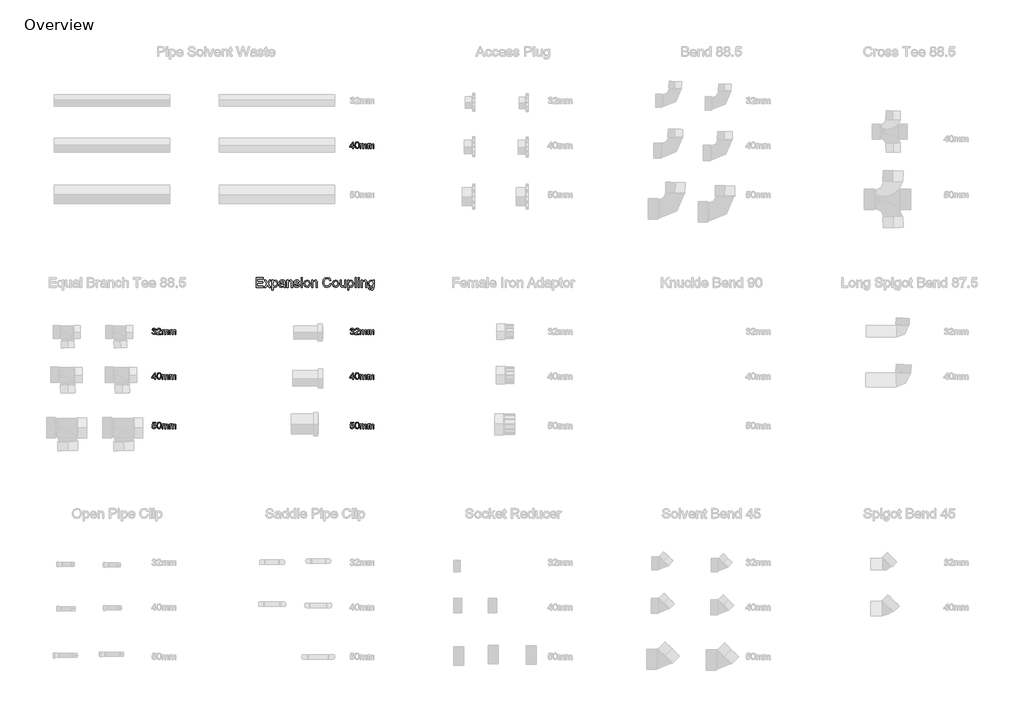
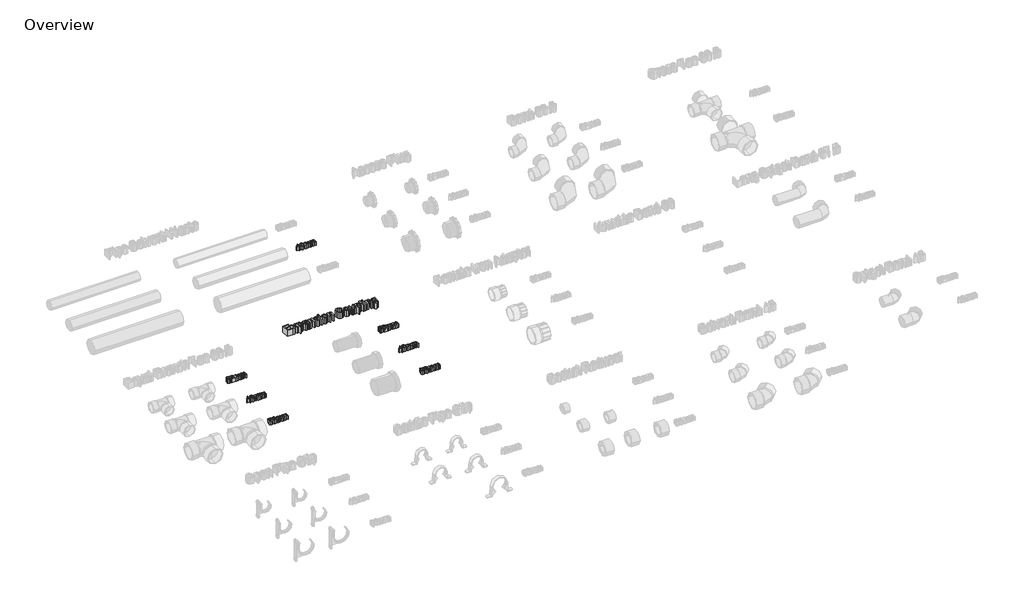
# One storey, part 5 of 10: 8 proxies.
"""IFC4 building model written with IfcOpenShell, lengths in millimetres."""

from ifc_helpers import new_model, si_unit, origin, origin_with_axes, place, context, project, spatial, polyline, outline, extrude, element, save

model = new_model("IFC4")

# Units and contexts
model_context = context("Model", 3, world=origin())
ifc_project = project(units=[si_unit("LENGTHUNIT", "METRE", prefix="MILLI")], contexts=[model_context])

# Site, building, storey
site = spatial("IfcSite", under=ifc_project)
building = spatial("IfcBuilding", under=site)
storey = spatial("IfcBuildingStorey", under=building, Name="Overview", Elevation=0.0)

# Proxies
placement = place(None, origin())
element("IfcBuildingElementProxy", 1, Name="20mm Arial", ObjectType="20mm Arial", at=placement, inside=storey, context=model_context, shape_type="SweptSolid", body=[
    extrude(outline(polyline([(-2898.2349117, 4421.4652453), (-2895.7733732, 4421.7729376), (-2894.4152001, 4419.1815914), (-2891.8743347, 4418.3883222), (-2888.8839501, 4419.4796684), (-2887.7733732, 4422.1815914), (-2888.8743347, 4424.7272645), (-2891.6724117, 4425.7344761), (-2893.3983732, 4425.4652453), (-2893.1243347, 4427.9267837), (-2889.9368347, 4428.6046684), (-2888.6964501, 4430.7777453), (-2889.5954886, 4432.7032261), (-2891.9127963, 4433.4652453), (-2894.2589501, 4432.6960145), (-2895.4656809, 4430.3883222), (-2897.9272194, 4430.6960145), (-2895.9127963, 4434.5565914), (-2891.9993347, 4435.9267837), (-2889.0305847, 4435.251303), (-2886.9536617, 4433.4051491), (-2886.2349117, 4430.9219761), (-2886.917604, 4428.6527453), (-2888.9368347, 4427.0229376), (-2886.2541424, 4425.3402453), (-2885.3118347, 4422.1383222), (-2887.1964501, 4417.7344761), (-2891.9608732, 4415.9267837), (-2896.2781809, 4417.470053), (-2898.2349117, 4421.4652453)])), origin_with_axes(), (0.0, 0.0, 1.0), 15.0),
    extrude(outline(polyline([(-2870.542604, 4418.6960145), (-2870.542604, 4416.2344761), (-2883.4656809, 4416.2344761), (-2883.2012578, 4417.9315914), (-2881.7060655, 4420.5445722), (-2878.6243347, 4423.3979376), (-2874.3743347, 4427.4988991), (-2873.3118347, 4430.2873607), (-2874.3142386, 4432.5445722), (-2876.9320271, 4433.4652453), (-2879.6603924, 4432.5662068), (-2880.6964501, 4430.0806299), (-2883.1579886, 4430.3883222), (-2881.2709694, 4434.5085145), (-2876.8791424, 4435.9267837), (-2872.4728924, 4434.3498607), (-2870.8502963, 4430.4363991), (-2871.2877963, 4428.1022645), (-2872.7421232, 4425.688803), (-2876.2685655, 4422.3162068), (-2879.1002963, 4419.9484184), (-2880.2108732, 4418.6960145), (-2870.542604, 4418.6960145)])), origin_with_axes(), (0.0, 0.0, 1.0), 15.0),
    extrude(outline(polyline([(-2867.4656809, 4416.2344761), (-2867.4656809, 4430.6960145), (-2865.0041424, 4430.6960145), (-2865.0041424, 4428.3162068), (-2863.3118347, 4430.2657261), (-2860.9031809, 4431.0037068), (-2858.4368347, 4430.251303), (-2857.0810655, 4428.1431299), (-2852.7349117, 4431.0037068), (-2849.5161617, 4429.813803), (-2848.3887578, 4426.1479376), (-2848.3887578, 4416.2344761), (-2850.8502963, 4416.2344761), (-2850.8502963, 4425.0902453), (-2851.0786617, 4427.1455337), (-2855.7325078, 4427.5565914), (-2856.6964501, 4424.3979376), (-2856.6964501, 4416.2344761), (-2859.1579886, 4416.2344761), (-2859.1579886, 4425.3642837), (-2859.7277001, 4427.7488991), (-2861.5954886, 4428.5421684), (-2863.417604, 4428.0133222), (-2864.6291424, 4426.4652453), (-2865.0041424, 4423.5277453), (-2865.0041424, 4416.2344761), (-2867.4656809, 4416.2344761)])), origin_with_axes(), (0.0, 0.0, 1.0), 15.0),
    extrude(outline(polyline([(-2844.6964501, 4416.2344761), (-2844.6964501, 4430.6960145), (-2842.2349117, 4430.6960145), (-2842.2349117, 4428.3162068), (-2840.542604, 4430.2657261), (-2838.1339501, 4431.0037068), (-2835.667604, 4430.251303), (-2834.3118347, 4428.1431299), (-2829.9656809, 4431.0037068), (-2826.7469309, 4429.813803), (-2825.6195271, 4426.1479376), (-2825.6195271, 4416.2344761), (-2828.0810655, 4416.2344761), (-2828.0810655, 4425.0902453), (-2828.3094309, 4427.1455337), (-2832.9632771, 4427.5565914), (-2833.9272194, 4424.3979376), (-2833.9272194, 4416.2344761), (-2836.3887578, 4416.2344761), (-2836.3887578, 4425.3642837), (-2836.9584694, 4427.7488991), (-2838.8262578, 4428.5421684), (-2840.6483732, 4428.0133222), (-2841.8599117, 4426.4652453), (-2842.2349117, 4423.5277453), (-2842.2349117, 4416.2344761), (-2844.6964501, 4416.2344761)])), origin_with_axes(), (0.0, 0.0, 1.0), 15.0),
])
element("IfcBuildingElementProxy", 2, Name="20mm Arial", ObjectType="20mm Arial", at=placement, inside=storey, context=model_context, shape_type="SweptSolid", body=[
    extrude(outline(polyline([(-2890.2349117, 4280.5685355), (-2890.2349117, 4285.1839201), (-2899.1579886, 4285.1839201), (-2899.1579886, 4287.6454586), (-2889.6195271, 4299.9531509), (-2887.7733732, 4299.9531509), (-2887.7733732, 4287.6454586), (-2885.3118347, 4287.6454586), (-2885.3118347, 4285.1839201), (-2887.7733732, 4285.1839201), (-2887.7733732, 4280.5685355), (-2890.2349117, 4280.5685355)]), holes=[polyline([(-2890.2349117, 4287.6454586), (-2890.2349117, 4295.2512278), (-2896.1291424, 4287.6454586), (-2890.2349117, 4287.6454586)])]), origin_with_axes(), (0.0, 0.0, 1.0), 15.0),
    extrude(outline(polyline([(-2883.1579886, 4290.2560355), (-2882.4344309, 4295.9219009), (-2880.2853924, 4299.1887278), (-2876.6964501, 4300.2608432), (-2873.8214501, 4299.6262278), (-2871.8358732, 4297.7969009), (-2870.6820271, 4294.8834393), (-2870.2349117, 4290.2560355), (-2870.9512578, 4284.6142086), (-2873.0930847, 4281.3401701), (-2876.6964501, 4280.2608432), (-2881.1964501, 4282.1358432), (-2883.1579886, 4290.2560355)]), holes=[polyline([(-2880.6964501, 4290.2608432), (-2879.542604, 4284.1478624), (-2876.6964501, 4282.7223816), (-2873.8502963, 4284.1526701), (-2872.6964501, 4290.2608432), (-2873.8118347, 4296.3041124), (-2876.7252963, 4297.7993047), (-2879.5041424, 4296.481997), (-2880.6964501, 4290.2608432)])]), origin_with_axes(), (0.0, 0.0, 1.0), 15.0),
    extrude(outline(polyline([(-2867.4656809, 4280.5685355), (-2867.4656809, 4295.030074), (-2865.0041424, 4295.030074), (-2865.0041424, 4292.6502663), (-2863.3118347, 4294.5997855), (-2860.9031809, 4295.3377663), (-2858.4368347, 4294.5853624), (-2857.0810655, 4292.4771893), (-2852.7349117, 4295.3377663), (-2849.5161617, 4294.1478624), (-2848.3887578, 4290.481997), (-2848.3887578, 4280.5685355), (-2850.8502963, 4280.5685355), (-2850.8502963, 4289.4243047), (-2851.0786617, 4291.4795932), (-2855.7325078, 4291.8906509), (-2856.6964501, 4288.731997), (-2856.6964501, 4280.5685355), (-2859.1579886, 4280.5685355), (-2859.1579886, 4289.6983432), (-2859.7277001, 4292.0829586), (-2861.5954886, 4292.8762278), (-2863.417604, 4292.3473816), (-2864.6291424, 4290.7993047), (-2865.0041424, 4287.8618047), (-2865.0041424, 4280.5685355), (-2867.4656809, 4280.5685355)])), origin_with_axes(), (0.0, 0.0, 1.0), 15.0),
    extrude(outline(polyline([(-2844.6964501, 4280.5685355), (-2844.6964501, 4295.030074), (-2842.2349117, 4295.030074), (-2842.2349117, 4292.6502663), (-2840.542604, 4294.5997855), (-2838.1339501, 4295.3377663), (-2835.667604, 4294.5853624), (-2834.3118347, 4292.4771893), (-2829.9656809, 4295.3377663), (-2826.7469309, 4294.1478624), (-2825.6195271, 4290.481997), (-2825.6195271, 4280.5685355), (-2828.0810655, 4280.5685355), (-2828.0810655, 4289.4243047), (-2828.3094309, 4291.4795932), (-2832.9632771, 4291.8906509), (-2833.9272194, 4288.731997), (-2833.9272194, 4280.5685355), (-2836.3887578, 4280.5685355), (-2836.3887578, 4289.6983432), (-2836.9584694, 4292.0829586), (-2838.8262578, 4292.8762278), (-2840.6483732, 4292.3473816), (-2841.8599117, 4290.7993047), (-2842.2349117, 4287.8618047), (-2842.2349117, 4280.5685355), (-2844.6964501, 4280.5685355)])), origin_with_axes(), (0.0, 0.0, 1.0), 15.0),
])
element("IfcBuildingElementProxy", 3, Name="20mm Arial", ObjectType="20mm Arial", at=placement, inside=storey, context=model_context, shape_type="SweptSolid", body=[
    extrude(outline(polyline([(-2898.2349117, 4136.1445961), (-2895.7733732, 4136.4522884), (-2894.5329886, 4133.9162307), (-2891.9608732, 4133.067673), (-2888.8743347, 4134.2479615), (-2887.7733732, 4137.380173), (-2888.8046232, 4140.3032499), (-2891.9224117, 4141.3753653), (-2894.0834694, 4140.9474807), (-2895.4656809, 4139.8369038), (-2897.9272194, 4140.1445961), (-2895.7733732, 4150.2984422), (-2886.2349117, 4150.2984422), (-2886.2349117, 4147.8369038), (-2893.7829886, 4147.8369038), (-2894.8358732, 4142.4138269), (-2891.2349117, 4143.8369038), (-2887.0257771, 4142.0724807), (-2885.3118347, 4137.5340192), (-2886.855104, 4132.9667115), (-2891.9704886, 4130.6061346), (-2896.3142386, 4132.1229615), (-2898.2349117, 4136.1445961)])), origin_with_axes(), (0.0, 0.0, 1.0), 15.0),
    extrude(outline(polyline([(-2883.1579886, 4140.6013269), (-2882.4344309, 4146.2671922), (-2880.2853924, 4149.5340192), (-2876.6964501, 4150.6061346), (-2873.8214501, 4149.9715192), (-2871.8358732, 4148.1421922), (-2870.6820271, 4145.2287307), (-2870.2349117, 4140.6013269), (-2870.9512578, 4134.9594999), (-2873.0930847, 4131.6854615), (-2876.6964501, 4130.6061346), (-2881.1964501, 4132.4811346), (-2883.1579886, 4140.6013269)]), holes=[polyline([(-2880.6964501, 4140.6061346), (-2879.542604, 4134.4931538), (-2876.6964501, 4133.067673), (-2873.8502963, 4134.4979615), (-2872.6964501, 4140.6061346), (-2873.8118347, 4146.6494038), (-2876.7252963, 4148.1445961), (-2879.5041424, 4146.8272884), (-2880.6964501, 4140.6061346)])]), origin_with_axes(), (0.0, 0.0, 1.0), 15.0),
    extrude(outline(polyline([(-2867.4656809, 4130.9138269), (-2867.4656809, 4145.3753653), (-2865.0041424, 4145.3753653), (-2865.0041424, 4142.9955576), (-2863.3118347, 4144.9450769), (-2860.9031809, 4145.6830576), (-2858.4368347, 4144.9306538), (-2857.0810655, 4142.8224807), (-2852.7349117, 4145.6830576), (-2849.5161617, 4144.4931538), (-2848.3887578, 4140.8272884), (-2848.3887578, 4130.9138269), (-2850.8502963, 4130.9138269), (-2850.8502963, 4139.7695961), (-2851.0786617, 4141.8248846), (-2855.7325078, 4142.2359422), (-2856.6964501, 4139.0772884), (-2856.6964501, 4130.9138269), (-2859.1579886, 4130.9138269), (-2859.1579886, 4140.0436346), (-2859.7277001, 4142.4282499), (-2861.5954886, 4143.2215192), (-2863.417604, 4142.692673), (-2864.6291424, 4141.1445961), (-2865.0041424, 4138.2070961), (-2865.0041424, 4130.9138269), (-2867.4656809, 4130.9138269)])), origin_with_axes(), (0.0, 0.0, 1.0), 15.0),
    extrude(outline(polyline([(-2844.6964501, 4130.9138269), (-2844.6964501, 4145.3753653), (-2842.2349117, 4145.3753653), (-2842.2349117, 4142.9955576), (-2840.542604, 4144.9450769), (-2838.1339501, 4145.6830576), (-2835.667604, 4144.9306538), (-2834.3118347, 4142.8224807), (-2829.9656809, 4145.6830576), (-2826.7469309, 4144.4931538), (-2825.6195271, 4140.8272884), (-2825.6195271, 4130.9138269), (-2828.0810655, 4130.9138269), (-2828.0810655, 4139.7695961), (-2828.3094309, 4141.8248846), (-2832.9632771, 4142.2359422), (-2833.9272194, 4139.0772884), (-2833.9272194, 4130.9138269), (-2836.3887578, 4130.9138269), (-2836.3887578, 4140.0436346), (-2836.9584694, 4142.4282499), (-2838.8262578, 4143.2215192), (-2840.6483732, 4142.692673), (-2841.8599117, 4141.1445961), (-2842.2349117, 4138.2070961), (-2842.2349117, 4130.9138269), (-2844.6964501, 4130.9138269)])), origin_with_axes(), (0.0, 0.0, 1.0), 15.0),
])
element("IfcBuildingElementProxy", 4, Name="20mm Arial", ObjectType="20mm Arial", at=placement, inside=storey, context=model_context, shape_type="SweptSolid", body=[
    extrude(outline(polyline([(-2298.2349117, 4421.4652453), (-2295.7733732, 4421.7729376), (-2294.4152001, 4419.1815914), (-2291.8743347, 4418.3883222), (-2288.8839501, 4419.4796684), (-2287.7733732, 4422.1815914), (-2288.8743347, 4424.7272645), (-2291.6724117, 4425.7344761), (-2293.3983732, 4425.4652453), (-2293.1243347, 4427.9267837), (-2289.9368347, 4428.6046684), (-2288.6964501, 4430.7777453), (-2289.5954886, 4432.7032261), (-2291.9127963, 4433.4652453), (-2294.2589501, 4432.6960145), (-2295.4656809, 4430.3883222), (-2297.9272194, 4430.6960145), (-2295.9127963, 4434.5565914), (-2291.9993347, 4435.9267837), (-2289.0305847, 4435.251303), (-2286.9536617, 4433.4051491), (-2286.2349117, 4430.9219761), (-2286.917604, 4428.6527453), (-2288.9368347, 4427.0229376), (-2286.2541424, 4425.3402453), (-2285.3118347, 4422.1383222), (-2287.1964501, 4417.7344761), (-2291.9608732, 4415.9267837), (-2296.2781809, 4417.470053), (-2298.2349117, 4421.4652453)])), origin_with_axes(), (0.0, 0.0, 1.0), 15.0),
    extrude(outline(polyline([(-2270.542604, 4418.6960145), (-2270.542604, 4416.2344761), (-2283.4656809, 4416.2344761), (-2283.2012578, 4417.9315914), (-2281.7060655, 4420.5445722), (-2278.6243347, 4423.3979376), (-2274.3743347, 4427.4988991), (-2273.3118347, 4430.2873607), (-2274.3142386, 4432.5445722), (-2276.9320271, 4433.4652453), (-2279.6603924, 4432.5662068), (-2280.6964501, 4430.0806299), (-2283.1579886, 4430.3883222), (-2281.2709694, 4434.5085145), (-2276.8791424, 4435.9267837), (-2272.4728924, 4434.3498607), (-2270.8502963, 4430.4363991), (-2271.2877963, 4428.1022645), (-2272.7421232, 4425.688803), (-2276.2685655, 4422.3162068), (-2279.1002963, 4419.9484184), (-2280.2108732, 4418.6960145), (-2270.542604, 4418.6960145)])), origin_with_axes(), (0.0, 0.0, 1.0), 15.0),
    extrude(outline(polyline([(-2267.4656809, 4416.2344761), (-2267.4656809, 4430.6960145), (-2265.0041424, 4430.6960145), (-2265.0041424, 4428.3162068), (-2263.3118347, 4430.2657261), (-2260.9031809, 4431.0037068), (-2258.4368347, 4430.251303), (-2257.0810655, 4428.1431299), (-2252.7349117, 4431.0037068), (-2249.5161617, 4429.813803), (-2248.3887578, 4426.1479376), (-2248.3887578, 4416.2344761), (-2250.8502963, 4416.2344761), (-2250.8502963, 4425.0902453), (-2251.0786617, 4427.1455337), (-2255.7325078, 4427.5565914), (-2256.6964501, 4424.3979376), (-2256.6964501, 4416.2344761), (-2259.1579886, 4416.2344761), (-2259.1579886, 4425.3642837), (-2259.7277001, 4427.7488991), (-2261.5954886, 4428.5421684), (-2263.417604, 4428.0133222), (-2264.6291424, 4426.4652453), (-2265.0041424, 4423.5277453), (-2265.0041424, 4416.2344761), (-2267.4656809, 4416.2344761)])), origin_with_axes(), (0.0, 0.0, 1.0), 15.0),
    extrude(outline(polyline([(-2244.6964501, 4416.2344761), (-2244.6964501, 4430.6960145), (-2242.2349117, 4430.6960145), (-2242.2349117, 4428.3162068), (-2240.542604, 4430.2657261), (-2238.1339501, 4431.0037068), (-2235.667604, 4430.251303), (-2234.3118347, 4428.1431299), (-2229.9656809, 4431.0037068), (-2226.7469309, 4429.813803), (-2225.6195271, 4426.1479376), (-2225.6195271, 4416.2344761), (-2228.0810655, 4416.2344761), (-2228.0810655, 4425.0902453), (-2228.3094309, 4427.1455337), (-2232.9632771, 4427.5565914), (-2233.9272194, 4424.3979376), (-2233.9272194, 4416.2344761), (-2236.3887578, 4416.2344761), (-2236.3887578, 4425.3642837), (-2236.9584694, 4427.7488991), (-2238.8262578, 4428.5421684), (-2240.6483732, 4428.0133222), (-2241.8599117, 4426.4652453), (-2242.2349117, 4423.5277453), (-2242.2349117, 4416.2344761), (-2244.6964501, 4416.2344761)])), origin_with_axes(), (0.0, 0.0, 1.0), 15.0),
])
element("IfcBuildingElementProxy", 5, Name="20mm Arial", ObjectType="20mm Arial", at=placement, inside=storey, context=model_context, shape_type="SweptSolid", body=[
    extrude(outline(polyline([(-2290.2349117, 4280.5685355), (-2290.2349117, 4285.1839201), (-2299.1579886, 4285.1839201), (-2299.1579886, 4287.6454586), (-2289.6195271, 4299.9531509), (-2287.7733732, 4299.9531509), (-2287.7733732, 4287.6454586), (-2285.3118347, 4287.6454586), (-2285.3118347, 4285.1839201), (-2287.7733732, 4285.1839201), (-2287.7733732, 4280.5685355), (-2290.2349117, 4280.5685355)]), holes=[polyline([(-2290.2349117, 4287.6454586), (-2290.2349117, 4295.2512278), (-2296.1291424, 4287.6454586), (-2290.2349117, 4287.6454586)])]), origin_with_axes(), (0.0, 0.0, 1.0), 15.0),
    extrude(outline(polyline([(-2283.1579886, 4290.2560355), (-2282.4344309, 4295.9219009), (-2280.2853924, 4299.1887278), (-2276.6964501, 4300.2608432), (-2273.8214501, 4299.6262278), (-2271.8358732, 4297.7969009), (-2270.6820271, 4294.8834393), (-2270.2349117, 4290.2560355), (-2270.9512578, 4284.6142086), (-2273.0930847, 4281.3401701), (-2276.6964501, 4280.2608432), (-2281.1964501, 4282.1358432), (-2283.1579886, 4290.2560355)]), holes=[polyline([(-2280.6964501, 4290.2608432), (-2279.542604, 4284.1478624), (-2276.6964501, 4282.7223816), (-2273.8502963, 4284.1526701), (-2272.6964501, 4290.2608432), (-2273.8118347, 4296.3041124), (-2276.7252963, 4297.7993047), (-2279.5041424, 4296.481997), (-2280.6964501, 4290.2608432)])]), origin_with_axes(), (0.0, 0.0, 1.0), 15.0),
    extrude(outline(polyline([(-2267.4656809, 4280.5685355), (-2267.4656809, 4295.030074), (-2265.0041424, 4295.030074), (-2265.0041424, 4292.6502663), (-2263.3118347, 4294.5997855), (-2260.9031809, 4295.3377663), (-2258.4368347, 4294.5853624), (-2257.0810655, 4292.4771893), (-2252.7349117, 4295.3377663), (-2249.5161617, 4294.1478624), (-2248.3887578, 4290.481997), (-2248.3887578, 4280.5685355), (-2250.8502963, 4280.5685355), (-2250.8502963, 4289.4243047), (-2251.0786617, 4291.4795932), (-2255.7325078, 4291.8906509), (-2256.6964501, 4288.731997), (-2256.6964501, 4280.5685355), (-2259.1579886, 4280.5685355), (-2259.1579886, 4289.6983432), (-2259.7277001, 4292.0829586), (-2261.5954886, 4292.8762278), (-2263.417604, 4292.3473816), (-2264.6291424, 4290.7993047), (-2265.0041424, 4287.8618047), (-2265.0041424, 4280.5685355), (-2267.4656809, 4280.5685355)])), origin_with_axes(), (0.0, 0.0, 1.0), 15.0),
    extrude(outline(polyline([(-2244.6964501, 4280.5685355), (-2244.6964501, 4295.030074), (-2242.2349117, 4295.030074), (-2242.2349117, 4292.6502663), (-2240.542604, 4294.5997855), (-2238.1339501, 4295.3377663), (-2235.667604, 4294.5853624), (-2234.3118347, 4292.4771893), (-2229.9656809, 4295.3377663), (-2226.7469309, 4294.1478624), (-2225.6195271, 4290.481997), (-2225.6195271, 4280.5685355), (-2228.0810655, 4280.5685355), (-2228.0810655, 4289.4243047), (-2228.3094309, 4291.4795932), (-2232.9632771, 4291.8906509), (-2233.9272194, 4288.731997), (-2233.9272194, 4280.5685355), (-2236.3887578, 4280.5685355), (-2236.3887578, 4289.6983432), (-2236.9584694, 4292.0829586), (-2238.8262578, 4292.8762278), (-2240.6483732, 4292.3473816), (-2241.8599117, 4290.7993047), (-2242.2349117, 4287.8618047), (-2242.2349117, 4280.5685355), (-2244.6964501, 4280.5685355)])), origin_with_axes(), (0.0, 0.0, 1.0), 15.0),
])
element("IfcBuildingElementProxy", 6, Name="20mm Arial", ObjectType="20mm Arial", at=placement, inside=storey, context=model_context, shape_type="SweptSolid", body=[
    extrude(outline(polyline([(-2298.2349117, 4136.1445961), (-2295.7733732, 4136.4522884), (-2294.5329886, 4133.9162307), (-2291.9608732, 4133.067673), (-2288.8743347, 4134.2479615), (-2287.7733732, 4137.380173), (-2288.8046232, 4140.3032499), (-2291.9224117, 4141.3753653), (-2294.0834694, 4140.9474807), (-2295.4656809, 4139.8369038), (-2297.9272194, 4140.1445961), (-2295.7733732, 4150.2984422), (-2286.2349117, 4150.2984422), (-2286.2349117, 4147.8369038), (-2293.7829886, 4147.8369038), (-2294.8358732, 4142.4138269), (-2291.2349117, 4143.8369038), (-2287.0257771, 4142.0724807), (-2285.3118347, 4137.5340192), (-2286.855104, 4132.9667115), (-2291.9704886, 4130.6061346), (-2296.3142386, 4132.1229615), (-2298.2349117, 4136.1445961)])), origin_with_axes(), (0.0, 0.0, 1.0), 15.0),
    extrude(outline(polyline([(-2283.1579886, 4140.6013269), (-2282.4344309, 4146.2671922), (-2280.2853924, 4149.5340192), (-2276.6964501, 4150.6061346), (-2273.8214501, 4149.9715192), (-2271.8358732, 4148.1421922), (-2270.6820271, 4145.2287307), (-2270.2349117, 4140.6013269), (-2270.9512578, 4134.9594999), (-2273.0930847, 4131.6854615), (-2276.6964501, 4130.6061346), (-2281.1964501, 4132.4811346), (-2283.1579886, 4140.6013269)]), holes=[polyline([(-2280.6964501, 4140.6061346), (-2279.542604, 4134.4931538), (-2276.6964501, 4133.067673), (-2273.8502963, 4134.4979615), (-2272.6964501, 4140.6061346), (-2273.8118347, 4146.6494038), (-2276.7252963, 4148.1445961), (-2279.5041424, 4146.8272884), (-2280.6964501, 4140.6061346)])]), origin_with_axes(), (0.0, 0.0, 1.0), 15.0),
    extrude(outline(polyline([(-2267.4656809, 4130.9138269), (-2267.4656809, 4145.3753653), (-2265.0041424, 4145.3753653), (-2265.0041424, 4142.9955576), (-2263.3118347, 4144.9450769), (-2260.9031809, 4145.6830576), (-2258.4368347, 4144.9306538), (-2257.0810655, 4142.8224807), (-2252.7349117, 4145.6830576), (-2249.5161617, 4144.4931538), (-2248.3887578, 4140.8272884), (-2248.3887578, 4130.9138269), (-2250.8502963, 4130.9138269), (-2250.8502963, 4139.7695961), (-2251.0786617, 4141.8248846), (-2255.7325078, 4142.2359422), (-2256.6964501, 4139.0772884), (-2256.6964501, 4130.9138269), (-2259.1579886, 4130.9138269), (-2259.1579886, 4140.0436346), (-2259.7277001, 4142.4282499), (-2261.5954886, 4143.2215192), (-2263.417604, 4142.692673), (-2264.6291424, 4141.1445961), (-2265.0041424, 4138.2070961), (-2265.0041424, 4130.9138269), (-2267.4656809, 4130.9138269)])), origin_with_axes(), (0.0, 0.0, 1.0), 15.0),
    extrude(outline(polyline([(-2244.6964501, 4130.9138269), (-2244.6964501, 4145.3753653), (-2242.2349117, 4145.3753653), (-2242.2349117, 4142.9955576), (-2240.542604, 4144.9450769), (-2238.1339501, 4145.6830576), (-2235.667604, 4144.9306538), (-2234.3118347, 4142.8224807), (-2229.9656809, 4145.6830576), (-2226.7469309, 4144.4931538), (-2225.6195271, 4140.8272884), (-2225.6195271, 4130.9138269), (-2228.0810655, 4130.9138269), (-2228.0810655, 4139.7695961), (-2228.3094309, 4141.8248846), (-2232.9632771, 4142.2359422), (-2233.9272194, 4139.0772884), (-2233.9272194, 4130.9138269), (-2236.3887578, 4130.9138269), (-2236.3887578, 4140.0436346), (-2236.9584694, 4142.4282499), (-2238.8262578, 4143.2215192), (-2240.6483732, 4142.692673), (-2241.8599117, 4141.1445961), (-2242.2349117, 4138.2070961), (-2242.2349117, 4130.9138269), (-2244.6964501, 4130.9138269)])), origin_with_axes(), (0.0, 0.0, 1.0), 15.0),
])
element("IfcBuildingElementProxy", 7, Name="20mm Arial", ObjectType="20mm Arial", at=placement, inside=storey, context=model_context, shape_type="SweptSolid", body=[
    extrude(outline(polyline([(-2290.2349117, 4980.5685355), (-2290.2349117, 4985.1839201), (-2299.1579886, 4985.1839201), (-2299.1579886, 4987.6454586), (-2289.6195271, 4999.9531509), (-2287.7733732, 4999.9531509), (-2287.7733732, 4987.6454586), (-2285.3118347, 4987.6454586), (-2285.3118347, 4985.1839201), (-2287.7733732, 4985.1839201), (-2287.7733732, 4980.5685355), (-2290.2349117, 4980.5685355)]), holes=[polyline([(-2290.2349117, 4987.6454586), (-2290.2349117, 4995.2512278), (-2296.1291424, 4987.6454586), (-2290.2349117, 4987.6454586)])]), origin_with_axes(), (0.0, 0.0, 1.0), 15.0),
    extrude(outline(polyline([(-2283.1579886, 4990.2560355), (-2282.4344309, 4995.9219009), (-2280.2853924, 4999.1887278), (-2276.6964501, 5000.2608432), (-2273.8214501, 4999.6262278), (-2271.8358732, 4997.7969009), (-2270.6820271, 4994.8834393), (-2270.2349117, 4990.2560355), (-2270.9512578, 4984.6142086), (-2273.0930847, 4981.3401701), (-2276.6964501, 4980.2608432), (-2281.1964501, 4982.1358432), (-2283.1579886, 4990.2560355)]), holes=[polyline([(-2280.6964501, 4990.2608432), (-2279.542604, 4984.1478624), (-2276.6964501, 4982.7223816), (-2273.8502963, 4984.1526701), (-2272.6964501, 4990.2608432), (-2273.8118347, 4996.3041124), (-2276.7252963, 4997.7993047), (-2279.5041424, 4996.481997), (-2280.6964501, 4990.2608432)])]), origin_with_axes(), (0.0, 0.0, 1.0), 15.0),
    extrude(outline(polyline([(-2267.4656809, 4980.5685355), (-2267.4656809, 4995.030074), (-2265.0041424, 4995.030074), (-2265.0041424, 4992.6502663), (-2263.3118347, 4994.5997855), (-2260.9031809, 4995.3377663), (-2258.4368347, 4994.5853624), (-2257.0810655, 4992.4771893), (-2252.7349117, 4995.3377663), (-2249.5161617, 4994.1478624), (-2248.3887578, 4990.481997), (-2248.3887578, 4980.5685355), (-2250.8502963, 4980.5685355), (-2250.8502963, 4989.4243047), (-2251.0786617, 4991.4795932), (-2255.7325078, 4991.8906509), (-2256.6964501, 4988.731997), (-2256.6964501, 4980.5685355), (-2259.1579886, 4980.5685355), (-2259.1579886, 4989.6983432), (-2259.7277001, 4992.0829586), (-2261.5954886, 4992.8762278), (-2263.417604, 4992.3473816), (-2264.6291424, 4990.7993047), (-2265.0041424, 4987.8618047), (-2265.0041424, 4980.5685355), (-2267.4656809, 4980.5685355)])), origin_with_axes(), (0.0, 0.0, 1.0), 15.0),
    extrude(outline(polyline([(-2244.6964501, 4980.5685355), (-2244.6964501, 4995.030074), (-2242.2349117, 4995.030074), (-2242.2349117, 4992.6502663), (-2240.542604, 4994.5997855), (-2238.1339501, 4995.3377663), (-2235.667604, 4994.5853624), (-2234.3118347, 4992.4771893), (-2229.9656809, 4995.3377663), (-2226.7469309, 4994.1478624), (-2225.6195271, 4990.481997), (-2225.6195271, 4980.5685355), (-2228.0810655, 4980.5685355), (-2228.0810655, 4989.4243047), (-2228.3094309, 4991.4795932), (-2232.9632771, 4991.8906509), (-2233.9272194, 4988.731997), (-2233.9272194, 4980.5685355), (-2236.3887578, 4980.5685355), (-2236.3887578, 4989.6983432), (-2236.9584694, 4992.0829586), (-2238.8262578, 4992.8762278), (-2240.6483732, 4992.3473816), (-2241.8599117, 4990.7993047), (-2242.2349117, 4987.8618047), (-2242.2349117, 4980.5685355), (-2244.6964501, 4980.5685355)])), origin_with_axes(), (0.0, 0.0, 1.0), 15.0),
])
element("IfcBuildingElementProxy", 8, Name="600mm Arial", ObjectType="600mm Arial", at=placement, inside=storey, context=model_context, shape_type="SweptSolid", body=[
    extrude(outline(polyline([(-2582.5308165, 4559.5713154), (-2582.5308165, 4589.1097769), (-2561.3000472, 4589.1097769), (-2561.3000472, 4585.4174692), (-2578.8385088, 4585.4174692), (-2578.8385088, 4576.6482385), (-2562.2231242, 4576.6482385), (-2562.2231242, 4572.9559308), (-2578.8385088, 4572.9559308), (-2578.8385088, 4563.2636231), (-2560.8385088, 4563.2636231), (-2560.8385088, 4559.5713154), (-2582.5308165, 4559.5713154)])), origin_with_axes(), (0.0, 0.0, 1.0), 25.0),
    extrude(outline(polyline([(-2558.069278, 4559.5713154), (-2550.1798549, 4570.4751615), (-2557.6077396, 4581.2636231), (-2553.1654319, 4581.2636231), (-2549.5812972, 4576.0713154), (-2547.9082203, 4573.6193923), (-2546.4587011, 4575.6242), (-2542.3769703, 4581.2636231), (-2537.9346626, 4581.2636231), (-2545.7375472, 4570.4751615), (-2538.2231242, 4559.5713154), (-2542.6654319, 4559.5713154), (-2547.1870665, 4566.1266038), (-2553.6269703, 4559.5713154), (-2558.069278, 4559.5713154)])), origin_with_axes(), (0.0, 0.0, 1.0), 25.0),
    extrude(outline(polyline([(-2534.9923549, 4551.2636231), (-2534.9923549, 4581.2636231), (-2531.3000472, 4581.2636231), (-2531.3000472, 4577.6434308), (-2528.7471626, 4580.7047288), (-2525.3000472, 4581.7251615), (-2520.6197588, 4580.2972769), (-2517.5620665, 4576.2732385), (-2516.5308165, 4570.5833346), (-2517.6954799, 4564.6013635), (-2521.0776915, 4560.5268442), (-2525.7471626, 4559.1097769), (-2528.959903, 4560.0580942), (-2531.3000472, 4562.4559308), (-2531.3000472, 4551.2636231), (-2534.9923549, 4551.2636231)]), holes=[polyline([(-2531.3000472, 4570.2443923), (-2529.7026915, 4564.6193923), (-2525.8264896, 4562.8020846), (-2521.8709607, 4564.6842962), (-2520.2231242, 4570.5184308), (-2521.8312972, 4576.1578538), (-2525.6750472, 4578.0328538), (-2529.5945184, 4576.0388635), (-2531.3000472, 4570.2443923)])]), origin_with_axes(), (0.0, 0.0, 1.0), 25.0),
    extrude(outline(polyline([(-2498.5308165, 4562.3405462), (-2502.1113453, 4559.8381423), (-2506.0668742, 4559.1097769), (-2511.428653, 4560.8621808), (-2513.3000472, 4565.3405462), (-2512.5933165, 4568.2612192), (-2510.7363453, 4570.3814115), (-2508.1510088, 4571.59295), (-2504.9562972, 4572.1482385), (-2498.5524511, 4573.4174692), (-2499.5476434, 4576.9655462), (-2503.6293742, 4578.0328538), (-2507.3649511, 4577.3225173), (-2509.1462011, 4574.8020846), (-2512.8385088, 4575.2636231), (-2511.241153, 4578.8693923), (-2508.0248069, 4580.9823731), (-2503.1534126, 4581.7251615), (-2498.678653, 4581.0689115), (-2496.1510088, 4579.421075), (-2495.0187972, 4576.9150654), (-2494.8385088, 4573.6842962), (-2494.8385088, 4569.0905462), (-2494.6510088, 4562.6758827), (-2493.9154319, 4559.5713154), (-2497.6077396, 4559.5713154), (-2498.5308165, 4562.3405462)]), holes=[polyline([(-2498.5416338, 4569.202325), (-2504.4875472, 4568.59295), (-2507.6642299, 4567.9943923), (-2509.1029319, 4567.0208346), (-2508.5079799, 4563.6025654), (-2505.2808165, 4562.8020846), (-2501.5452396, 4563.6854981), (-2499.1365857, 4565.8237192), (-2498.5416338, 4569.202325)])]), origin_with_axes(), (0.0, 0.0, 1.0), 25.0),
    extrude(outline(polyline([(-2489.7615857, 4559.5713154), (-2489.7615857, 4581.2636231), (-2486.069278, 4581.2636231), (-2486.069278, 4578.2347769), (-2479.3913934, 4581.7251615), (-2475.9046146, 4581.0220365), (-2473.5248069, 4579.1758827), (-2472.4178357, 4576.4607385), (-2472.2231242, 4572.8910269), (-2472.2231242, 4559.5713154), (-2475.9154319, 4559.5713154), (-2475.9154319, 4572.3934308), (-2476.3409126, 4575.6602577), (-2477.8445184, 4577.3874212), (-2480.3793742, 4578.0328538), (-2484.3853838, 4576.5833346), (-2486.069278, 4571.0809308), (-2486.069278, 4559.5713154), (-2489.7615857, 4559.5713154)])), origin_with_axes(), (0.0, 0.0, 1.0), 25.0),
    extrude(outline(polyline([(-2468.5308165, 4566.0328538), (-2464.8385088, 4566.4943923), (-2463.1293742, 4563.7540077), (-2459.2135088, 4562.8020846), (-2455.4490857, 4563.6746808), (-2454.2231242, 4565.7227577), (-2455.4562972, 4567.3814115), (-2459.256778, 4568.4342962), (-2464.8168742, 4570.2407865), (-2467.2435569, 4572.3501615), (-2468.069278, 4575.3285269), (-2467.4058165, 4578.0797288), (-2465.5957203, 4580.1818923), (-2463.2483646, 4581.2744404), (-2460.0716819, 4581.7251615), (-2455.5788934, 4581.0004019), (-2452.7231242, 4579.0388635), (-2451.4538934, 4575.7251615), (-2455.1462011, 4575.2636231), (-2456.5344222, 4577.3008827), (-2459.7832203, 4578.0328538), (-2463.3168742, 4577.3333346), (-2464.3769703, 4575.7035269), (-2462.5596626, 4573.8141038), (-2459.3793742, 4573.0280462), (-2453.959903, 4571.2900654), (-2451.4430761, 4569.3213154), (-2450.5308165, 4566.1121808), (-2451.6017299, 4562.5785269), (-2454.6918742, 4560.014825), (-2459.2639896, 4559.1097769), (-2465.7038934, 4560.8549692), (-2468.5308165, 4566.0328538)])), origin_with_axes(), (0.0, 0.0, 1.0), 25.0),
    extrude(outline(polyline([(-2446.3769703, 4585.4174692), (-2446.3769703, 4589.1097769), (-2442.6846626, 4589.1097769), (-2442.6846626, 4585.4174692), (-2446.3769703, 4585.4174692)])), origin_with_axes(), (0.0, 0.0, 1.0), 25.0),
    extrude(outline(polyline([(-2446.3769703, 4559.5713154), (-2446.3769703, 4581.2636231), (-2442.6846626, 4581.2636231), (-2442.6846626, 4559.5713154), (-2446.3769703, 4559.5713154)])), origin_with_axes(), (0.0, 0.0, 1.0), 25.0),
    extrude(outline(polyline([(-2438.069278, 4570.4174692), (-2434.8745665, 4579.3237192), (-2428.3697588, 4581.7251615), (-2421.3925953, 4578.8008827), (-2418.6846626, 4570.7203538), (-2419.881778, 4564.1506423), (-2423.3685569, 4560.4330942), (-2428.3697588, 4559.1097769), (-2435.3901915, 4562.0232385), (-2438.069278, 4570.4174692)]), holes=[polyline([(-2434.3769703, 4570.4246808), (-2432.6678357, 4564.702325), (-2428.3697588, 4562.8020846), (-2424.0861049, 4564.7131423), (-2422.3769703, 4570.5400654), (-2424.0969222, 4576.1326135), (-2428.3697588, 4578.0328538), (-2432.6678357, 4576.139825), (-2434.3769703, 4570.4246808)])]), origin_with_axes(), (0.0, 0.0, 1.0), 25.0),
    extrude(outline(polyline([(-2414.5308165, 4559.5713154), (-2414.5308165, 4581.2636231), (-2410.8385088, 4581.2636231), (-2410.8385088, 4578.2347769), (-2404.1606242, 4581.7251615), (-2400.6738453, 4581.0220365), (-2398.2940376, 4579.1758827), (-2397.1870665, 4576.4607385), (-2396.9923549, 4572.8910269), (-2396.9923549, 4559.5713154), (-2400.6846626, 4559.5713154), (-2400.6846626, 4572.3934308), (-2401.1101434, 4575.6602577), (-2402.6137492, 4577.3874212), (-2405.1486049, 4578.0328538), (-2409.1546146, 4576.5833346), (-2410.8385088, 4571.0809308), (-2410.8385088, 4559.5713154), (-2414.5308165, 4559.5713154)])), origin_with_axes(), (0.0, 0.0, 1.0), 25.0),
    extrude(outline(polyline([(-2359.1462011, 4570.0713154), (-2355.4538934, 4569.1193923), (-2359.8312972, 4561.6734788), (-2367.5620665, 4559.1097769), (-2375.2459607, 4561.0496808), (-2379.7531722, 4566.6674692), (-2381.3000472, 4574.5641038), (-2379.5512492, 4582.5905462), (-2374.5788934, 4587.7936712), (-2367.4827396, 4589.5713154), (-2360.0873069, 4587.2708346), (-2355.9154319, 4580.7948731), (-2359.6077396, 4579.9150654), (-2362.6365857, 4584.4547288), (-2367.6269703, 4585.8790077), (-2373.4034126, 4584.2996808), (-2376.6666338, 4580.0592962), (-2377.6077396, 4574.5713154), (-2376.4935569, 4568.2107385), (-2373.0248069, 4564.1470365), (-2367.9298549, 4562.8020846), (-2362.2796146, 4564.6338154), (-2359.1462011, 4570.0713154)])), origin_with_axes(), (0.0, 0.0, 1.0), 25.0),
    extrude(outline(polyline([(-2351.7615857, 4570.4174692), (-2348.5668742, 4579.3237192), (-2342.0620665, 4581.7251615), (-2335.084903, 4578.8008827), (-2332.3769703, 4570.7203538), (-2333.5740857, 4564.1506423), (-2337.0608646, 4560.4330942), (-2342.0620665, 4559.1097769), (-2349.0824992, 4562.0232385), (-2351.7615857, 4570.4174692)]), holes=[polyline([(-2348.069278, 4570.4246808), (-2346.3601434, 4564.702325), (-2342.0620665, 4562.8020846), (-2337.7784126, 4564.7131423), (-2336.069278, 4570.5400654), (-2337.7892299, 4576.1326135), (-2342.0620665, 4578.0328538), (-2346.3601434, 4576.139825), (-2348.069278, 4570.4246808)])]), origin_with_axes(), (0.0, 0.0, 1.0), 25.0),
    extrude(outline(polyline([(-2314.3769703, 4559.5713154), (-2314.3769703, 4563.2996808), (-2321.0404319, 4559.1097769), (-2324.5127876, 4559.8453538), (-2326.9070184, 4561.6915077), (-2328.006778, 4564.4102577), (-2328.2231242, 4567.84295), (-2328.2231242, 4581.2636231), (-2324.5308165, 4581.2636231), (-2324.5308165, 4569.5809308), (-2324.3072588, 4565.8165077), (-2322.8469222, 4563.6061712), (-2320.0957203, 4562.8020846), (-2317.0127876, 4563.6242), (-2314.975528, 4565.8633827), (-2314.3769703, 4569.9775654), (-2314.3769703, 4581.2636231), (-2310.6846626, 4581.2636231), (-2310.6846626, 4559.5713154), (-2314.3769703, 4559.5713154)])), origin_with_axes(), (0.0, 0.0, 1.0), 25.0),
    extrude(outline(polyline([(-2305.6077396, 4551.2636231), (-2305.6077396, 4581.2636231), (-2301.9154319, 4581.2636231), (-2301.9154319, 4577.6434308), (-2299.3625472, 4580.7047288), (-2295.9154319, 4581.7251615), (-2291.2351434, 4580.2972769), (-2288.1774511, 4576.2732385), (-2287.1462011, 4570.5833346), (-2288.3108646, 4564.6013635), (-2291.6930761, 4560.5268442), (-2296.3625472, 4559.1097769), (-2299.5752876, 4560.0580942), (-2301.9154319, 4562.4559308), (-2301.9154319, 4551.2636231), (-2305.6077396, 4551.2636231)]), holes=[polyline([(-2301.9154319, 4570.2443923), (-2300.3180761, 4564.6193923), (-2296.4418742, 4562.8020846), (-2292.4863453, 4564.6842962), (-2290.8385088, 4570.5184308), (-2292.4466819, 4576.1578538), (-2296.2904319, 4578.0328538), (-2300.209903, 4576.0388635), (-2301.9154319, 4570.2443923)])]), origin_with_axes(), (0.0, 0.0, 1.0), 25.0),
    extrude(outline(polyline([(-2282.9923549, 4559.5713154), (-2282.9923549, 4589.1097769), (-2279.3000472, 4589.1097769), (-2279.3000472, 4559.5713154), (-2282.9923549, 4559.5713154)])), origin_with_axes(), (0.0, 0.0, 1.0), 25.0),
    extrude(outline(polyline([(-2273.7615857, 4559.5713154), (-2273.7615857, 4581.2636231), (-2270.069278, 4581.2636231), (-2270.069278, 4559.5713154), (-2273.7615857, 4559.5713154)])), origin_with_axes(), (0.0, 0.0, 1.0), 25.0),
    extrude(outline(polyline([(-2273.7615857, 4585.4174692), (-2273.7615857, 4589.1097769), (-2270.069278, 4589.1097769), (-2270.069278, 4585.4174692), (-2273.7615857, 4585.4174692)])), origin_with_axes(), (0.0, 0.0, 1.0), 25.0),
    extrude(outline(polyline([(-2264.5308165, 4559.5713154), (-2264.5308165, 4581.2636231), (-2260.8385088, 4581.2636231), (-2260.8385088, 4578.2347769), (-2254.1606242, 4581.7251615), (-2250.6738453, 4581.0220365), (-2248.2940376, 4579.1758827), (-2247.1870665, 4576.4607385), (-2246.9923549, 4572.8910269), (-2246.9923549, 4559.5713154), (-2250.6846626, 4559.5713154), (-2250.6846626, 4572.3934308), (-2251.1101434, 4575.6602577), (-2252.6137492, 4577.3874212), (-2255.1486049, 4578.0328538), (-2259.1546146, 4576.5833346), (-2260.8385088, 4571.0809308), (-2260.8385088, 4559.5713154), (-2264.5308165, 4559.5713154)])), origin_with_axes(), (0.0, 0.0, 1.0), 25.0),
    extrude(outline(polyline([(-2242.8385088, 4557.7251615), (-2239.1462011, 4557.2636231), (-2237.9490857, 4555.3165077), (-2234.3649511, 4554.4943923), (-2230.5861049, 4555.4246808), (-2228.7832203, 4558.0352577), (-2228.5308165, 4562.3405462), (-2234.3000472, 4559.5713154), (-2240.9454799, 4562.7948731), (-2243.3000472, 4570.5256423), (-2242.2435569, 4576.2479981), (-2239.1858646, 4580.2972769), (-2234.4803357, 4581.7251615), (-2228.5308165, 4578.4943923), (-2228.5308165, 4581.2636231), (-2224.8385088, 4581.2636231), (-2224.8385088, 4562.5352577), (-2225.8481242, 4555.3633827), (-2229.0464415, 4552.0280462), (-2234.4370665, 4550.8020846), (-2240.5776915, 4552.5292481), (-2242.8385088, 4557.7251615)]), holes=[polyline([(-2239.6077396, 4570.7780462), (-2238.0320184, 4565.0629019), (-2234.0764896, 4563.2636231), (-2230.1281722, 4565.0520846), (-2228.5308165, 4570.6698731), (-2230.1750472, 4576.1758827), (-2234.1341819, 4578.0328538), (-2238.0103838, 4576.2047288), (-2239.6077396, 4570.7780462)])]), origin_with_axes(), (0.0, 0.0, 1.0), 25.0),
])

save(model, "model.ifc")
